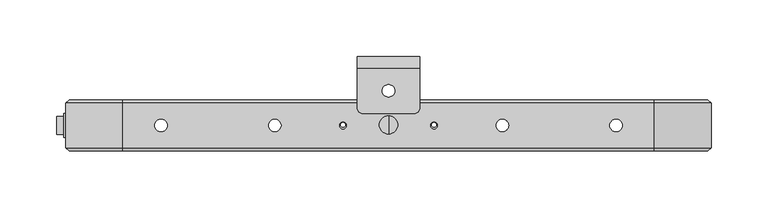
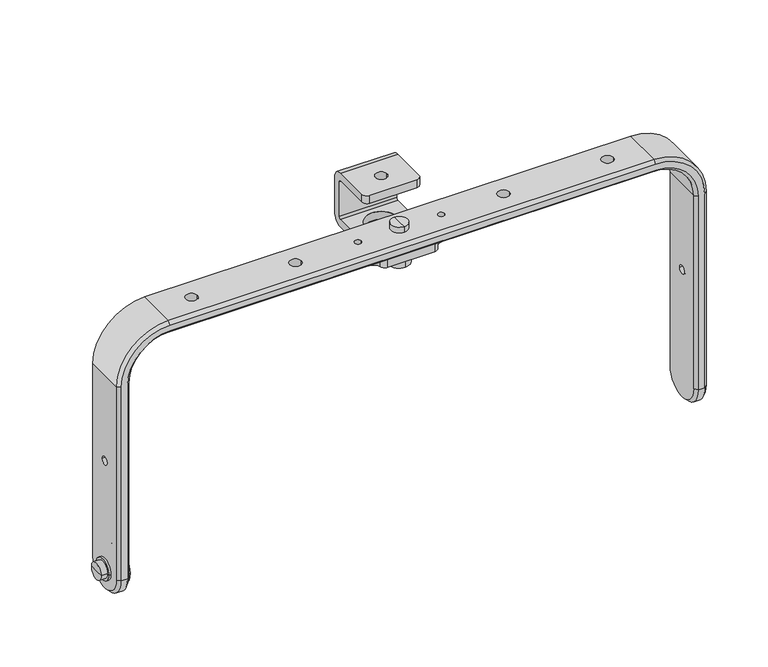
"""IFC4 building model written with IfcOpenShell, lengths in millimetres: proxy geometry, ePS10-HBRK535-CHM : ePS10-HBRK535-CHM."""

from ifc_helpers import new_model, si_unit, point, frame, origin, place, context, project, spatial, polyline, circle_curve, ellipse_curve, trimmed, source, transform, mapped, element, save
from ifc_brep_helpers import plane_surface, cylinder_surface, revolved_surface, advanced_brep


def generic_models_acdf5499(model_context):
    return source(origin(), model_context, "Body", "AdvancedBrep", [
        advanced_brep(
        [(-271.5, -12.057585, -281.5012591), (-271.5, -48.942415, -281.5012591), (-271.5, -34.5553577, -281.5012591), (-271.5, -26.4446423, -281.5012591), (-268.5, -15.057585, -281.5012591), (-268.5, -45.942415, -281.5012591), (-268.5, -26.4446423, -281.5012591), (-268.5, -34.5553577, -281.5012591), (-265.5, -26.4446423, -281.5012591), (-265.5, -34.5553577, -281.5012591), (-265.5, -30.5, -281.5012591), (-291.5, -22.4249697, -281.5012591), (-291.5, -38.5750303, -281.5012591), (-291.5, -30.5, -281.5012591), (-285.5, -22.4249697, -281.5012591), (-285.5, -38.5750303, -281.5012591), (-285.5, -19.944078, -281.5012591), (-285.5, -41.055922, -281.5012591), (-283.5, -19.944078, -281.5012591), (-283.5, -41.055922, -281.5012591), (-283.5, -26.4446423, -281.5012591), (-283.5, -34.5553577, -281.5012591)],
        [
            (0, 1, circle_curve(frame((-271.5, -30.5, -281.5012591), z_axis=(-1.0, 0.0, 0.0), x_axis=(0.0, -1.0, 0.0)), 18.442415)),
            (1, 2),
            (2, 3, circle_curve(frame((-271.5, -30.5, -281.5012591), z_axis=(1.0, 0.0, 0.0), x_axis=(0.0, -1.0, 0.0)), 4.0553577)),
            (3, 0),
            (1, 0, circle_curve(frame((-271.5, -30.5, -281.5012591), z_axis=(-1.0, 0.0, 0.0), x_axis=(0.0, -1.0, 0.0)), 18.442415)),
            (3, 2, circle_curve(frame((-271.5, -30.5, -281.5012591), z_axis=(1.0, 0.0, 0.0), x_axis=(0.0, -1.0, 0.0)), 4.0553577)),
            (4, 5, circle_curve(frame((-268.5, -30.5, -281.5012591), z_axis=(-1.0, 0.0, 0.0), x_axis=(0.0, -1.0, 0.0)), 15.442415)),
            (5, 1, circle_curve(frame((-271.5, -45.942415, -281.5012591), z_axis=(0.0, 0.0, -1.0), x_axis=(1.0, 0.0, 0.0)), 3.0)),
            (0, 4, circle_curve(frame((-271.5, -15.057585, -281.5012591), z_axis=(0.0, 0.0, -1.0), x_axis=(1.0, 0.0, 0.0)), 3.0)),
            (5, 4, circle_curve(frame((-268.5, -30.5, -281.5012591), z_axis=(-1.0, 0.0, 0.0), x_axis=(0.0, -1.0, 0.0)), 15.442415)),
            (6, 7, circle_curve(frame((-268.5, -30.5, -281.5012591), z_axis=(-1.0, 0.0, 0.0), x_axis=(0.0, -1.0, 0.0)), 4.0553577)),
            (7, 5),
            (4, 6),
            (7, 6, circle_curve(frame((-268.5, -30.5, -281.5012591), z_axis=(-1.0, 0.0, 0.0), x_axis=(0.0, -1.0, 0.0)), 4.0553577)),
            (8, 9, circle_curve(frame((-265.5, -30.5, -281.5012591), z_axis=(-1.0, 0.0, 0.0), x_axis=(0.0, -1.0, 0.0)), 4.0553577)),
            (9, 7),
            (6, 8),
            (9, 8, circle_curve(frame((-265.5, -30.5, -281.5012591), z_axis=(-1.0, 0.0, 0.0), x_axis=(0.0, -1.0, 0.0)), 4.0553577)),
            (10, 9),
            (8, 10),
            (11, 12, circle_curve(frame((-291.5, -30.5, -281.5012591), z_axis=(-1.0, 0.0, 0.0), x_axis=(0.0, -1.0, 0.0)), 8.0750303)),
            (12, 13),
            (13, 11),
            (12, 11, circle_curve(frame((-291.5, -30.5, -281.5012591), z_axis=(-1.0, 0.0, 0.0), x_axis=(0.0, -1.0, 0.0)), 8.0750303)),
            (14, 15, circle_curve(frame((-285.5, -30.5, -281.5012591), z_axis=(-1.0, 0.0, 0.0), x_axis=(0.0, -1.0, 0.0)), 8.0750303)),
            (15, 12),
            (11, 14),
            (15, 14, circle_curve(frame((-285.5, -30.5, -281.5012591), z_axis=(-1.0, 0.0, 0.0), x_axis=(0.0, -1.0, 0.0)), 8.0750303)),
            (16, 17, circle_curve(frame((-285.5, -30.5, -281.5012591), z_axis=(-1.0, 0.0, 0.0), x_axis=(0.0, -1.0, 0.0)), 10.555922)),
            (17, 15),
            (14, 16),
            (17, 16, circle_curve(frame((-285.5, -30.5, -281.5012591), z_axis=(-1.0, 0.0, 0.0), x_axis=(0.0, -1.0, 0.0)), 10.555922)),
            (18, 19, circle_curve(frame((-283.5, -30.5, -281.5012591), z_axis=(-1.0, 0.0, 0.0), x_axis=(0.0, -1.0, 0.0)), 10.555922)),
            (19, 17),
            (16, 18),
            (19, 18, circle_curve(frame((-283.5, -30.5, -281.5012591), z_axis=(-1.0, 0.0, 0.0), x_axis=(0.0, -1.0, 0.0)), 10.555922)),
            (20, 21, circle_curve(frame((-283.5, -30.5, -281.5012591), z_axis=(-1.0, 0.0, 0.0), x_axis=(0.0, -1.0, 0.0)), 4.0553577)),
            (21, 19),
            (18, 20),
            (21, 20, circle_curve(frame((-283.5, -30.5, -281.5012591), z_axis=(-1.0, 0.0, 0.0), x_axis=(0.0, -1.0, 0.0)), 4.0553577)),
            (2, 21),
            (20, 3),
        ],
        [
            plane_surface(frame((-271.5, -30.5, -281.5012591), z_axis=(-1.0, 0.0, 0.0), x_axis=(0.0, -1.0, 0.0))),
            revolved_surface(trimmed(ellipse_curve(frame((-271.5, -45.942415, -281.5012591), z_axis=(0.0, 0.0, 1.0), x_axis=(1.0, 0.0, 0.0)), 3.0, 3.0), [point((-271.5, -48.942415, -281.5012591))], [point((-268.5, -45.942415, -281.5012591))], True, "CARTESIAN"), (-258.7578639, -30.5, -281.5012591), (1.0, 0.0, 0.0)),
            plane_surface(frame((-268.5, -30.5, -281.5012591), z_axis=(1.0, 0.0, 0.0), x_axis=(0.0, -1.0, 0.0))),
            cylinder_surface(frame((-258.7578639, -30.5, -281.5012591), z_axis=(1.0, 0.0, 0.0), x_axis=(0.0, -1.0, 0.0)), 4.0553577),
            plane_surface(frame((-265.5, -30.5, -281.5012591), z_axis=(1.0, 0.0, 0.0), x_axis=(0.0, -1.0, 0.0))),
            plane_surface(frame((-291.5, -30.5, -281.5012591), z_axis=(-1.0, 0.0, 0.0), x_axis=(0.0, -1.0, 0.0))),
            cylinder_surface(frame((-258.7578639, -30.5, -281.5012591), z_axis=(1.0, 0.0, 0.0), x_axis=(0.0, -1.0, 0.0)), 8.0750303),
            plane_surface(frame((-285.5, -30.5, -281.5012591), z_axis=(-1.0, 0.0, 0.0), x_axis=(0.0, -1.0, 0.0))),
            cylinder_surface(frame((-258.7578639, -30.5, -281.5012591), z_axis=(1.0, 0.0, 0.0), x_axis=(0.0, -1.0, 0.0)), 10.555922),
            plane_surface(frame((-283.5, -30.5, -281.5012591), z_axis=(1.0, 0.0, 0.0), x_axis=(0.0, -1.0, 0.0))),
        ],
        [
            (0, [[1, 2, 3, 4]]),
            (0, [[5, -4, 6, -2]]),
            (1, [[7, 8, -1, 9]]),
            (1, [[10, -9, -5, -8]]),
            (2, [[11, 12, -7, 13]]),
            (2, [[14, -13, -10, -12]]),
            (3, [[15, 16, -11, 17]]),
            (3, [[18, -17, -14, -16]]),
            (4, [[19, -15, 20]]),
            (4, [[-20, -18, -19]]),
            (5, [[21, 22, 23]]),
            (5, [[24, -23, -22]]),
            (6, [[25, 26, -21, 27]]),
            (6, [[28, -27, -24, -26]]),
            (7, [[29, 30, -25, 31]]),
            (7, [[32, -31, -28, -30]]),
            (8, [[33, 34, -29, 35]]),
            (8, [[36, -35, -32, -34]]),
            (9, [[37, 38, -33, 39]]),
            (9, [[40, -39, -36, -38]]),
            (3, [[-3, 41, -37, 42]]),
            (3, [[-6, -42, -40, -41]]),
        ],
    ),
        advanced_brep(
        [(283.5, -10.9281655, -281.5012591), (283.5, -10.9281655, -85.0), (283.5, -50.0718345, -85.0), (283.5, -50.0718345, -281.5012591), (283.5, -26.5, -172.0012591), (283.5, -34.5, -172.0012591), (280.5, -53.0718345, -85.0), (280.5, -53.0718345, -281.5012591), (233.5, -53.0718345, -38.0), (-233.5, -53.0718345, -38.0), (-280.5, -53.0718345, -85.0), (-280.5, -53.0718345, -281.5012591), (-274.5, -53.0718345, -281.5012591), (-274.5, -53.0718345, -85.0), (-233.5, -53.0718345, -44.0), (233.5, -53.0718345, -44.0), (274.5, -53.0718345, -85.0), (274.5, -53.0718345, -281.5012591), (271.5, -50.0718345, -85.0), (271.5, -50.0718345, -281.5012591), (271.5, -10.9281655, -85.0), (271.5, -10.9281655, -281.5012591), (271.5, -34.5, -172.0012591), (271.5, -26.5, -172.0012591), (233.5, -10.9281655, -35.0), (233.5, -50.0718345, -35.0), (233.5, -50.0718345, -47.0), (233.5, -10.9281655, -47.0), (-233.5, -10.9281655, -35.0), (-233.5, -50.0718345, -35.0), (5.5, -30.5, -35.0), (-5.5, -30.5, -35.0), (-194.5, -30.5, -35.0), (-205.5, -30.5, -35.0), (-37.0, -30.5, -35.0), (-43.0, -30.5, -35.0), (-94.5, -30.5, -35.0), (-105.5, -30.5, -35.0), (194.5, -30.5, -35.0), (205.5, -30.5, -35.0), (37.0, -30.5, -35.0), (43.0, -30.5, -35.0), (94.5, -30.5, -35.0), (105.5, -30.5, -35.0), (-233.5, -50.0718345, -47.0), (-233.5, -10.9281655, -47.0), (-5.5, -30.5, -47.0), (5.5, -30.5, -47.0), (-205.5, -30.5, -47.0), (-194.5, -30.5, -47.0), (-43.0, -30.5, -47.0), (-37.0, -30.5, -47.0), (-105.5, -30.5, -47.0), (-94.5, -30.5, -47.0), (205.5, -30.5, -47.0), (194.5, -30.5, -47.0), (43.0, -30.5, -47.0), (37.0, -30.5, -47.0), (105.5, -30.5, -47.0), (94.5, -30.5, -47.0), (-283.5, -10.9281655, -85.0), (-283.5, -50.0718345, -85.0), (-271.5, -50.0718345, -85.0), (-271.5, -10.9281655, -85.0), (-283.5, -10.9281655, -281.5012591), (-283.5, -50.0718345, -281.5012591), (-283.5, -34.5, -172.0012591), (-283.5, -26.5, -172.0012591), (-271.5, -50.0718345, -281.5012591), (-271.5, -10.9281655, -281.5012591), (-271.5, -26.5, -172.0012591), (-271.5, -34.5, -172.0012591), (274.5, -7.9281655, -85.0), (274.5, -7.9281655, -281.5012591), (233.5, -7.9281655, -44.0), (-233.5, -7.9281655, -44.0), (-274.5, -7.9281655, -85.0), (-274.5, -7.9281655, -281.5012591), (-280.5, -7.9281655, -281.5012591), (-280.5, -7.9281655, -85.0), (-233.5, -7.9281655, -38.0), (233.5, -7.9281655, -38.0), (280.5, -7.9281655, -85.0), (280.5, -7.9281655, -281.5012591)],
        [
            (0, 1),
            (1, 2),
            (2, 3),
            (3, 0, circle_curve(frame((283.5, -30.5, -281.5012591), z_axis=(1.0, 0.0, 0.0), x_axis=(0.0, -1.0, 0.0)), 19.5718345)),
            (4, 5, circle_curve(frame((283.5, -30.5, -172.0012591), z_axis=(-1.0, 0.0, 0.0), x_axis=(0.0, 1.0, 0.0)), 4.0)),
            (5, 4, circle_curve(frame((283.5, -30.5, -172.0012591), z_axis=(-1.0, 0.0, 0.0), x_axis=(0.0, 1.0, 0.0)), 4.0)),
            (2, 6),
            (6, 7),
            (7, 3),
            (6, 8, circle_curve(frame((233.5, -53.0718345, -85.0), z_axis=(0.0, -1.0, 0.0), x_axis=(1.0, 0.0, 0.0)), 47.0)),
            (8, 9),
            (9, 10, circle_curve(frame((-233.5, -53.0718345, -85.0), z_axis=(0.0, -1.0, 0.0), x_axis=(0.0, 0.0, 1.0)), 47.0)),
            (10, 11),
            (11, 12),
            (12, 13),
            (13, 14, circle_curve(frame((-233.5, -53.0718345, -85.0), z_axis=(0.0, 1.0, 0.0), x_axis=(0.0, 0.0, 1.0)), 41.0)),
            (14, 15),
            (15, 16, circle_curve(frame((233.5, -53.0718345, -85.0), z_axis=(0.0, 1.0, 0.0), x_axis=(1.0, 0.0, 0.0)), 41.0)),
            (16, 17),
            (17, 7),
            (16, 18),
            (18, 19),
            (19, 17),
            (18, 20),
            (20, 21),
            (21, 19, circle_curve(frame((271.5, -30.5, -281.5012591), z_axis=(-1.0, 0.0, 0.0), x_axis=(0.0, -1.0, 0.0)), 19.5718345)),
            (22, 23, circle_curve(frame((271.5, -30.5, -172.0012591), z_axis=(1.0, 0.0, 0.0), x_axis=(0.0, 1.0, 0.0)), 4.0)),
            (23, 22, circle_curve(frame((271.5, -30.5, -172.0012591), z_axis=(1.0, 0.0, 0.0), x_axis=(0.0, 1.0, 0.0)), 4.0)),
            (1, 24, circle_curve(frame((233.5, -10.9281655, -85.0), z_axis=(0.0, -1.0, 0.0), x_axis=(1.0, 0.0, 0.0)), 50.0)),
            (24, 25),
            (25, 2, circle_curve(frame((233.5, -50.0718345, -85.0), z_axis=(0.0, 1.0, 0.0), x_axis=(1.0, 0.0, 0.0)), 50.0)),
            (25, 8),
            (15, 26),
            (26, 18, circle_curve(frame((233.5, -50.0718345, -85.0), z_axis=(0.0, 1.0, 0.0), x_axis=(1.0, 0.0, 0.0)), 38.0)),
            (26, 27),
            (27, 20, circle_curve(frame((233.5, -10.9281655, -85.0), z_axis=(0.0, 1.0, 0.0), x_axis=(1.0, 0.0, 0.0)), 38.0)),
            (24, 28),
            (28, 29),
            (29, 25),
            (30, 31, circle_curve(frame((0.0, -30.5, -35.0), z_axis=(0.0, 0.0, -1.0), x_axis=(1.0, 0.0, 0.0)), 5.5)),
            (31, 30, circle_curve(frame((0.0, -30.5, -35.0), z_axis=(0.0, 0.0, -1.0), x_axis=(1.0, 0.0, 0.0)), 5.5)),
            (32, 33, circle_curve(frame((-200.0, -30.5, -35.0), z_axis=(0.0, 0.0, -1.0), x_axis=(1.0, 0.0, 0.0)), 5.5)),
            (33, 32, circle_curve(frame((-200.0, -30.5, -35.0), z_axis=(0.0, 0.0, -1.0), x_axis=(1.0, 0.0, 0.0)), 5.5)),
            (34, 35, circle_curve(frame((-40.0, -30.5, -35.0), z_axis=(0.0, 0.0, -1.0), x_axis=(1.0, 0.0, 0.0)), 3.0)),
            (35, 34, circle_curve(frame((-40.0, -30.5, -35.0), z_axis=(0.0, 0.0, -1.0), x_axis=(1.0, 0.0, 0.0)), 3.0)),
            (36, 37, circle_curve(frame((-100.0, -30.5, -35.0), z_axis=(0.0, 0.0, -1.0), x_axis=(1.0, 0.0, 0.0)), 5.5)),
            (37, 36, circle_curve(frame((-100.0, -30.5, -35.0), z_axis=(0.0, 0.0, -1.0), x_axis=(1.0, 0.0, 0.0)), 5.5)),
            (38, 39, circle_curve(frame((200.0, -30.5, -35.0), z_axis=(0.0, 0.0, -1.0), x_axis=(-1.0, 0.0, 0.0)), 5.5)),
            (39, 38, circle_curve(frame((200.0, -30.5, -35.0), z_axis=(0.0, 0.0, -1.0), x_axis=(-1.0, 0.0, 0.0)), 5.5)),
            (40, 41, circle_curve(frame((40.0, -30.5, -35.0), z_axis=(0.0, 0.0, -1.0), x_axis=(-1.0, 0.0, 0.0)), 3.0)),
            (41, 40, circle_curve(frame((40.0, -30.5, -35.0), z_axis=(0.0, 0.0, -1.0), x_axis=(-1.0, 0.0, 0.0)), 3.0)),
            (42, 43, circle_curve(frame((100.0, -30.5, -35.0), z_axis=(0.0, 0.0, -1.0), x_axis=(-1.0, 0.0, 0.0)), 5.5)),
            (43, 42, circle_curve(frame((100.0, -30.5, -35.0), z_axis=(0.0, 0.0, -1.0), x_axis=(-1.0, 0.0, 0.0)), 5.5)),
            (29, 9),
            (14, 44),
            (44, 26),
            (44, 45),
            (45, 27),
            (46, 47, circle_curve(frame((0.0, -30.5, -47.0), z_axis=(0.0, 0.0, 1.0), x_axis=(1.0, 0.0, 0.0)), 5.5)),
            (47, 46, circle_curve(frame((0.0, -30.5, -47.0), z_axis=(0.0, 0.0, 1.0), x_axis=(1.0, 0.0, 0.0)), 5.5)),
            (48, 49, circle_curve(frame((-200.0, -30.5, -47.0), z_axis=(0.0, 0.0, 1.0), x_axis=(1.0, 0.0, 0.0)), 5.5)),
            (49, 48, circle_curve(frame((-200.0, -30.5, -47.0), z_axis=(0.0, 0.0, 1.0), x_axis=(1.0, 0.0, 0.0)), 5.5)),
            (50, 51, circle_curve(frame((-40.0, -30.5, -47.0), z_axis=(0.0, 0.0, 1.0), x_axis=(1.0, 0.0, 0.0)), 3.0)),
            (51, 50, circle_curve(frame((-40.0, -30.5, -47.0), z_axis=(0.0, 0.0, 1.0), x_axis=(1.0, 0.0, 0.0)), 3.0)),
            (52, 53, circle_curve(frame((-100.0, -30.5, -47.0), z_axis=(0.0, 0.0, 1.0), x_axis=(1.0, 0.0, 0.0)), 5.5)),
            (53, 52, circle_curve(frame((-100.0, -30.5, -47.0), z_axis=(0.0, 0.0, 1.0), x_axis=(1.0, 0.0, 0.0)), 5.5)),
            (54, 55, circle_curve(frame((200.0, -30.5, -47.0), z_axis=(0.0, 0.0, 1.0), x_axis=(-1.0, 0.0, 0.0)), 5.5)),
            (55, 54, circle_curve(frame((200.0, -30.5, -47.0), z_axis=(0.0, 0.0, 1.0), x_axis=(-1.0, 0.0, 0.0)), 5.5)),
            (56, 57, circle_curve(frame((40.0, -30.5, -47.0), z_axis=(0.0, 0.0, 1.0), x_axis=(-1.0, 0.0, 0.0)), 3.0)),
            (57, 56, circle_curve(frame((40.0, -30.5, -47.0), z_axis=(0.0, 0.0, 1.0), x_axis=(-1.0, 0.0, 0.0)), 3.0)),
            (58, 59, circle_curve(frame((100.0, -30.5, -47.0), z_axis=(0.0, 0.0, 1.0), x_axis=(-1.0, 0.0, 0.0)), 5.5)),
            (59, 58, circle_curve(frame((100.0, -30.5, -47.0), z_axis=(0.0, 0.0, 1.0), x_axis=(-1.0, 0.0, 0.0)), 5.5)),
            (28, 60, circle_curve(frame((-233.5, -10.9281655, -85.0), z_axis=(0.0, -1.0, 0.0), x_axis=(0.0, 0.0, 1.0)), 50.0)),
            (60, 61),
            (61, 29, circle_curve(frame((-233.5, -50.0718345, -85.0), z_axis=(0.0, 1.0, 0.0), x_axis=(0.0, 0.0, 1.0)), 50.0)),
            (61, 10),
            (13, 62),
            (62, 44, circle_curve(frame((-233.5, -50.0718345, -85.0), z_axis=(0.0, 1.0, 0.0), x_axis=(0.0, 0.0, 1.0)), 38.0)),
            (62, 63),
            (63, 45, circle_curve(frame((-233.5, -10.9281655, -85.0), z_axis=(0.0, 1.0, 0.0), x_axis=(0.0, 0.0, 1.0)), 38.0)),
            (60, 64),
            (64, 65, circle_curve(frame((-283.5, -30.5, -281.5012591), z_axis=(-1.0, 0.0, 0.0), x_axis=(0.0, -1.0, 0.0)), 19.5718345)),
            (65, 61),
            (66, 67, circle_curve(frame((-283.5, -30.5, -172.0012591), z_axis=(1.0, 0.0, 0.0), x_axis=(0.0, 1.0, 0.0)), 4.0)),
            (67, 66, circle_curve(frame((-283.5, -30.5, -172.0012591), z_axis=(1.0, 0.0, 0.0), x_axis=(0.0, 1.0, 0.0)), 4.0)),
            (65, 11),
            (12, 68),
            (68, 62),
            (68, 69, circle_curve(frame((-271.5, -30.5, -281.5012591), z_axis=(1.0, 0.0, 0.0), x_axis=(0.0, -1.0, 0.0)), 19.5718345)),
            (69, 63),
            (70, 71, circle_curve(frame((-271.5, -30.5, -172.0012591), z_axis=(-1.0, 0.0, 0.0), x_axis=(0.0, 1.0, 0.0)), 4.0)),
            (71, 70, circle_curve(frame((-271.5, -30.5, -172.0012591), z_axis=(-1.0, 0.0, 0.0), x_axis=(0.0, 1.0, 0.0)), 4.0)),
            (20, 72),
            (72, 73),
            (73, 21),
            (72, 74, circle_curve(frame((233.5, -7.9281655, -85.0), z_axis=(0.0, -1.0, 0.0), x_axis=(1.0, 0.0, 0.0)), 41.0)),
            (74, 75),
            (75, 76, circle_curve(frame((-233.5, -7.9281655, -85.0), z_axis=(0.0, -1.0, 0.0), x_axis=(0.0, 0.0, 1.0)), 41.0)),
            (76, 77),
            (77, 78),
            (78, 79),
            (79, 80, circle_curve(frame((-233.5, -7.9281655, -85.0), z_axis=(0.0, 1.0, 0.0), x_axis=(0.0, 0.0, 1.0)), 47.0)),
            (80, 81),
            (81, 82, circle_curve(frame((233.5, -7.9281655, -85.0), z_axis=(0.0, 1.0, 0.0), x_axis=(1.0, 0.0, 0.0)), 47.0)),
            (82, 83),
            (83, 73),
            (0, 83),
            (82, 1),
            (27, 74),
            (81, 24),
            (45, 75),
            (80, 28),
            (63, 76),
            (79, 60),
            (69, 77),
            (78, 64),
            (77, 12, circle_curve(frame((-274.5, -30.5, -281.5012591), z_axis=(-1.0, 0.0, 0.0), x_axis=(0.0, -1.0, 0.0)), 22.5718345)),
            (11, 78, circle_curve(frame((-280.5, -30.5, -281.5012591), z_axis=(1.0, 0.0, 0.0), x_axis=(0.0, -1.0, 0.0)), 22.5718345)),
            (83, 7, circle_curve(frame((280.5, -30.5, -281.5012591), z_axis=(-1.0, 0.0, 0.0), x_axis=(0.0, -1.0, 0.0)), 22.5718345)),
            (17, 73, circle_curve(frame((274.5, -30.5, -281.5012591), z_axis=(1.0, 0.0, 0.0), x_axis=(0.0, -1.0, 0.0)), 22.5718345)),
            (46, 31),
            (30, 47),
            (48, 33),
            (32, 49),
            (50, 35),
            (34, 51),
            (22, 5),
            (4, 23),
            (66, 71),
            (70, 67),
            (52, 37),
            (36, 53),
            (54, 39),
            (38, 55),
            (56, 41),
            (40, 57),
            (58, 43),
            (42, 59),
        ],
        [
            plane_surface(frame((283.5, -10.9281655, -281.5012591), z_axis=(1.0, 0.0, 0.0), x_axis=(0.0, 0.0, 1.0))),
            plane_surface(frame((283.5, -50.0718345, -281.5012591), z_axis=(0.7071067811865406, -0.7071067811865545, 0.0), x_axis=(0.0, 0.0, 1.0))),
            plane_surface(frame((280.5, -53.0718345, -281.5012591), z_axis=(0.0, -1.0, 0.0), x_axis=(0.0, 0.0, 1.0))),
            plane_surface(frame((274.5, -53.0718345, -281.5012591), z_axis=(-0.707106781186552, -0.707106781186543, 0.0), x_axis=(0.0, 0.0, 1.0))),
            plane_surface(frame((271.5, -50.0718345, -281.5012591), z_axis=(-1.0, 0.0, 0.0), x_axis=(0.0, 0.0, 1.0))),
            cylinder_surface(frame((233.5, -30.5, -85.0), z_axis=(0.0, -1.0, 0.0), x_axis=(1.0, 0.0, 0.0)), 50.0),
            revolved_surface(polyline([(283.5, -50.0718345, -85.0), (280.5, -53.0718345, -85.0)]), (233.5, -30.5, -85.0), (0.0, -1.0, 0.0)),
            revolved_surface(polyline([(274.5, -53.0718345, -85.0), (271.5, -50.0718345, -85.0)]), (233.5, -30.5, -85.0), (0.0, -1.0, 0.0)),
            revolved_surface(polyline([(271.5, -50.0718345, -85.0), (271.5, -10.928165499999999, -85.0)]), (233.5, -30.5, -85.0), (0.0, -1.0, 0.0)),
            plane_surface(frame((233.5, -10.9281655, -35.0), z_axis=(0.0, 0.0, 1.0), x_axis=(-1.0, 0.0, 0.0))),
            plane_surface(frame((233.5, -50.0718345, -35.0), z_axis=(0.0, -0.7071067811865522, 0.7071067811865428), x_axis=(-1.0, 0.0, 0.0))),
            plane_surface(frame((233.5, -53.0718345, -44.0), z_axis=(0.0, -0.7071067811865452, -0.7071067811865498), x_axis=(-1.0, 0.0, 0.0))),
            plane_surface(frame((233.5, -50.0718345, -47.0), z_axis=(0.0, 0.0, -1.0), x_axis=(-1.0, 0.0, 0.0))),
            cylinder_surface(frame((-233.5, -30.5, -85.0), z_axis=(0.0, -1.0, 0.0), x_axis=(0.0, 0.0, 1.0)), 50.0),
            revolved_surface(polyline([(-233.5, -50.0718345, -35.0), (-233.5, -53.0718345, -38.0)]), (-233.5, -30.5, -85.0), (0.0, -1.0, 0.0)),
            revolved_surface(polyline([(-233.5, -53.0718345, -44.0), (-233.5, -50.0718345, -47.0)]), (-233.5, -30.5, -85.0), (0.0, -1.0, 0.0)),
            revolved_surface(polyline([(-233.5, -50.0718345, -47.0), (-233.5, -10.928165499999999, -47.0)]), (-233.5, -30.5, -85.0), (0.0, -1.0, 0.0)),
            plane_surface(frame((-283.5, -10.9281655, -85.0), z_axis=(-1.0, 0.0, 0.0), x_axis=(0.0, 0.0, -1.0))),
            plane_surface(frame((-283.5, -50.0718345, -85.0), z_axis=(-0.707106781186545, -0.70710678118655, 0.0), x_axis=(0.0, 0.0, -1.0))),
            plane_surface(frame((-274.5, -53.0718345, -85.0), z_axis=(0.7071067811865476, -0.7071067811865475, 0.0), x_axis=(0.0, 0.0, -1.0))),
            plane_surface(frame((-271.5, -50.0718345, -85.0), z_axis=(1.0, 0.0, 0.0), x_axis=(0.0, 0.0, -1.0))),
            plane_surface(frame((271.5, -10.9281655, -281.5012591), z_axis=(-0.7071067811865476, 0.7071067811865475, 0.0), x_axis=(0.0, 0.0, 1.0))),
            plane_surface(frame((274.5, -7.9281655, -281.5012591), z_axis=(0.0, 1.0, 0.0), x_axis=(0.0, 0.0, 1.0))),
            plane_surface(frame((280.5, -7.9281655, -281.5012591), z_axis=(0.707106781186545, 0.70710678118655, 0.0), x_axis=(0.0, 0.0, 1.0))),
            revolved_surface(polyline([(271.5, -10.9281655, -85.0), (274.5, -7.9281655, -85.0)]), (233.5, -30.5, -85.0), (0.0, -1.0, 0.0)),
            revolved_surface(polyline([(280.5, -7.9281655, -85.0), (283.5, -10.9281655, -85.0)]), (233.5, -30.5, -85.0), (0.0, -1.0, 0.0)),
            plane_surface(frame((233.5, -10.9281655, -47.0), z_axis=(0.0, 0.7071067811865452, -0.7071067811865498), x_axis=(-1.0, 0.0, 0.0))),
            plane_surface(frame((233.5, -7.9281655, -38.0), z_axis=(0.0, 0.7071067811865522, 0.7071067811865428), x_axis=(-1.0, 0.0, 0.0))),
            revolved_surface(polyline([(-233.5, -10.9281655, -47.0), (-233.5, -7.9281655, -44.0)]), (-233.5, -30.5, -85.0), (0.0, -1.0, 0.0)),
            revolved_surface(polyline([(-233.5, -7.9281655, -38.0), (-233.5, -10.9281655, -35.0)]), (-233.5, -30.5, -85.0), (0.0, -1.0, 0.0)),
            plane_surface(frame((-271.5, -10.9281655, -85.0), z_axis=(0.707106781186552, 0.707106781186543, 0.0), x_axis=(0.0, 0.0, -1.0))),
            plane_surface(frame((-280.5, -7.9281655, -85.0), z_axis=(-0.7071067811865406, 0.7071067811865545, 0.0), x_axis=(0.0, 0.0, -1.0))),
            cylinder_surface(frame((1916.0, -30.5, -281.5012591), z_axis=(1.0, 0.0, 0.0), x_axis=(0.0, -1.0, 0.0)), 22.5718345),
            revolved_surface(polyline([(-274.5, -53.0718345, -281.5012591), (-271.5, -50.0718345, -281.5012591)]), (1916.0, -30.5, -281.5012591), (1.0, 0.0, 0.0)),
            revolved_surface(polyline([(-283.5, -50.0718345, -281.5012591), (-280.5, -53.0718345, -281.5012591)]), (1916.0, -30.5, -281.5012591), (1.0, 0.0, 0.0)),
            cylinder_surface(frame((-1916.0, -30.5, -281.5012591), z_axis=(1.0, 0.0, 0.0), x_axis=(0.0, -1.0, 0.0)), 22.5718345),
            revolved_surface(polyline([(271.5, -50.0718345, -281.5012591), (274.5, -53.0718345, -281.5012591)]), (-1916.0, -30.5, -281.5012591), (1.0, 0.0, 0.0)),
            revolved_surface(polyline([(280.5, -53.0718345, -281.5012591), (283.5, -50.0718345, -281.5012591)]), (-1916.0, -30.5, -281.5012591), (1.0, 0.0, 0.0)),
            revolved_surface(polyline([(5.5, -30.5, -35.0), (5.5, -30.5, -47.0)]), (0.0, -30.5, -55.0), (0.0, 0.0, 1.0)),
            revolved_surface(polyline([(-194.5, -30.5, -35.0), (-194.5, -30.5, -47.0)]), (-200.0, -30.5, -35.0), (0.0, 0.0, 1.0)),
            revolved_surface(polyline([(-37.0, -30.5, -35.0), (-37.0, -30.5, -47.0)]), (-40.0, -30.5, -35.0), (0.0, 0.0, 1.0)),
            revolved_surface(polyline([(283.5, -26.5, -172.0012591), (271.5, -26.5, -172.0012591)]), (-290.0, -30.5, -172.0012591), (1.0, 0.0, 0.0)),
            revolved_surface(polyline([(-271.5, -26.5, -172.0012591), (-283.5, -26.5, -172.0012591)]), (-290.0, -30.5, -172.0012591), (1.0, 0.0, 0.0)),
            revolved_surface(polyline([(-94.5, -30.5, -35.0), (-94.5, -30.5, -47.0)]), (-100.0, -30.5, -35.0), (0.0, 0.0, 1.0)),
            revolved_surface(polyline([(194.5, -30.5, -35.0), (194.5, -30.5, -47.0)]), (200.0, -30.5, -35.0), (0.0, 0.0, 1.0)),
            revolved_surface(polyline([(37.0, -30.5, -35.0), (37.0, -30.5, -47.0)]), (40.0, -30.5, -35.0), (0.0, 0.0, 1.0)),
            revolved_surface(polyline([(94.5, -30.5, -35.0), (94.5, -30.5, -47.0)]), (100.0, -30.5, -35.0), (0.0, 0.0, 1.0)),
        ],
        [
            (0, [[1, 2, 3, 4], [5, 6]]),
            (1, [[-3, 7, 8, 9]]),
            (2, [[-8, 10, 11, 12, 13, 14, 15, 16, 17, 18, 19, 20]]),
            (3, [[-19, 21, 22, 23]]),
            (4, [[-22, 24, 25, 26], [27, 28]]),
            (5, [[-2, 29, 30, 31]]),
            (6, [[-7, -31, 32, -10]]),
            (7, [[-18, 33, 34, -21]]),
            (8, [[-24, -34, 35, 36]]),
            (9, [[-30, 37, 38, 39], [40, 41], [42, 43], [44, 45], [46, 47], [48, 49], [50, 51], [52, 53]]),
            (10, [[-11, -32, -39, 54]]),
            (11, [[-17, 55, 56, -33]]),
            (12, [[-35, -56, 57, 58], [59, 60], [61, 62], [63, 64], [65, 66], [67, 68], [69, 70], [71, 72]]),
            (13, [[-38, 73, 74, 75]]),
            (14, [[-12, -54, -75, 76]]),
            (15, [[-16, 77, 78, -55]]),
            (16, [[-57, -78, 79, 80]]),
            (17, [[-74, 81, 82, 83], [84, 85]]),
            (18, [[-13, -76, -83, 86]]),
            (19, [[-15, 87, 88, -77]]),
            (20, [[-79, -88, 89, 90], [91, 92]]),
            (21, [[-25, 93, 94, 95]]),
            (22, [[-94, 96, 97, 98, 99, 100, 101, 102, 103, 104, 105, 106]]),
            (23, [[-1, 107, -105, 108]]),
            (24, [[-36, 109, -96, -93]]),
            (25, [[-29, -108, -104, 110]]),
            (26, [[-58, 111, -97, -109]]),
            (27, [[-37, -110, -103, 112]]),
            (28, [[-80, 113, -98, -111]]),
            (29, [[-73, -112, -102, 114]]),
            (30, [[-90, 115, -99, -113]]),
            (31, [[-81, -114, -101, 116]]),
            (32, [[117, -14, 118, -100]]),
            (33, [[-117, -115, -89, -87]]),
            (34, [[-118, -86, -82, -116]]),
            (35, [[119, -20, 120, -106]]),
            (36, [[-120, -23, -26, -95]]),
            (37, [[-119, -107, -4, -9]]),
            (38, [[121, -40, 122, -59]]),
            (38, [[-121, -60, -122, -41]]),
            (39, [[123, -42, 124, -61]]),
            (39, [[-123, -62, -124, -43]]),
            (40, [[125, -44, 126, -63]]),
            (40, [[-125, -64, -126, -45]]),
            (41, [[127, -5, 128, -27]]),
            (42, [[129, -91, 130, -84]]),
            (41, [[-127, -28, -128, -6]]),
            (42, [[-129, -85, -130, -92]]),
            (43, [[131, -46, 132, -65]]),
            (43, [[-131, -66, -132, -47]]),
            (44, [[133, -48, 134, -67]]),
            (44, [[-133, -68, -134, -49]]),
            (45, [[135, -50, 136, -69]]),
            (45, [[-135, -70, -136, -51]]),
            (46, [[137, -52, 138, -71]]),
            (46, [[-137, -72, -138, -53]]),
        ],
    ),
        advanced_brep(
        [(-27.5, 20.0220326, -55.0), (27.5, 20.0220326, -55.0), (27.5, -9.9779674, -55.0), (37.5, -19.9779674, -55.0), (42.5, -19.9779674, -55.0), (42.5, -39.9779674, -55.0), (36.6421356, -39.9779674, -55.0), (26.9417827, -47.2877077, -55.0), (22.545369, -49.9781759, -55.0), (-22.590738, -49.9779674, -55.0), (-27.3678633, -46.0992499, -55.0), (-36.6421356, -39.9779674, -55.0), (-42.5, -39.9779674, -55.0), (-42.5, -19.9779674, -55.0), (-37.5, -19.9779674, -55.0), (-27.5, -9.9779674, -55.0), (-42.0082653, -29.9779674, -55.0), (-38.0082653, -29.9779674, -55.0), (42.0082653, -29.9779674, -55.0), (38.0082653, -29.9779674, -55.0), (1.5, -24.4779674, -55.0), (-1.5, -24.4779674, -55.0), (-1.5, -35.4779674, -55.0), (1.5, -35.4779674, -55.0), (-15.0, 0.0, -55.0), (15.0, 0.0, -55.0), (-27.5, 30.0220326, -45.0), (27.5, 30.0220326, -45.0), (-27.5, 30.0220326, -10.0), (27.5, 30.0220326, -10.0), (-27.5, 20.0220326, 0.0), (27.5, 20.0220326, 0.0), (-27.5, -14.9779674, 0.0), (-22.5, -19.9779674, 0.0), (22.5, -19.9779674, 0.0), (27.5, -14.9779674, 0.0), (5.5, 0.0, 0.0), (-5.5, 0.0, 0.0), (-22.5, -19.9779674, -8.0), (22.5, -19.9779674, -8.0), (-27.5, -14.9779674, -8.0), (-27.5, 20.0220326, -8.0), (27.5, 20.0220326, -8.0), (27.5, -14.9779674, -8.0), (-5.5, 0.0, -8.0), (5.5, 0.0, -8.0), (-27.5, 22.0220326, -10.0), (27.5, 22.0220326, -10.0), (-27.5, 22.0220326, -45.0), (27.5, 22.0220326, -45.0), (-27.5, 20.0220326, -47.0), (27.5, 20.0220326, -47.0), (-27.5, -9.9779674, -47.0), (-37.5, -19.9779674, -47.0), (-42.5, -19.9779674, -47.0), (-42.5, -39.9779674, -47.0), (-36.6421356, -39.9779674, -47.0), (-27.3678633, -46.0992499, -47.0), (-22.545369, -49.9781759, -47.0), (22.590738, -49.9779674, -47.0), (26.9417827, -47.2877077, -47.0), (36.6421356, -39.9779674, -47.0), (42.5, -39.9779674, -47.0), (42.5, -19.9779674, -47.0), (37.5, -19.9779674, -47.0), (27.5, -9.9779674, -47.0), (-38.0082653, -29.9779674, -47.0), (-42.0082653, -29.9779674, -47.0), (38.0082653, -29.9779674, -47.0), (42.0082653, -29.9779674, -47.0), (-1.5, -24.4779674, -47.0), (1.5, -24.4779674, -47.0), (1.5, -35.4779674, -47.0), (-1.5, -35.4779674, -47.0), (15.0, 0.0, -47.0), (-15.0, 0.0, -47.0)],
        [
            (0, 1),
            (1, 2),
            (2, 3, circle_curve(frame((37.5, -9.9779674, -55.0), z_axis=(0.0, 0.0, 1.0), x_axis=(-1.0, 0.0, 0.0)), 10.0)),
            (3, 4),
            (4, 5, circle_curve(frame((42.5, -29.9779674, -55.0), z_axis=(0.0, 0.0, -1.0), x_axis=(-1.0, 0.0, 0.0)), 10.0)),
            (5, 6),
            (6, 7, circle_curve(frame((36.6685563, -50.1043005, -55.0), z_axis=(0.0, 0.0, 1.0), x_axis=(-1.0, 0.0, 0.0)), 10.1263676)),
            (7, 8, circle_curve(frame((22.545369, -45.0409177, -55.0), z_axis=(0.0, 0.0, -1.0), x_axis=(-1.0, 0.0, 0.0)), 4.9372582)),
            (8, 9),
            (9, 10, circle_curve(frame((-22.545369, -45.0409177, -55.0), z_axis=(0.0, 0.0, -1.0), x_axis=(1.0, 0.0, 0.0)), 4.9372582)),
            (10, 11, circle_curve(frame((-36.6685563, -50.1043005, -55.0), z_axis=(0.0, 0.0, 1.0), x_axis=(1.0, 0.0, 0.0)), 10.1263676)),
            (11, 12),
            (12, 13, circle_curve(frame((-42.5, -29.9779674, -55.0), z_axis=(0.0, 0.0, -1.0), x_axis=(1.0, 0.0, 0.0)), 10.0)),
            (13, 14),
            (14, 15, circle_curve(frame((-37.5, -9.9779674, -55.0), z_axis=(0.0, 0.0, 1.0), x_axis=(1.0, 0.0, 0.0)), 10.0)),
            (15, 0),
            (16, 17, circle_curve(frame((-40.0082653, -29.9779674, -55.0), z_axis=(0.0, 0.0, 1.0), x_axis=(1.0, 0.0, 0.0)), 2.0)),
            (17, 16, circle_curve(frame((-40.0082653, -29.9779674, -55.0), z_axis=(0.0, 0.0, 1.0), x_axis=(1.0, 0.0, 0.0)), 2.0)),
            (18, 19, circle_curve(frame((40.0082653, -29.9779674, -55.0), z_axis=(0.0, 0.0, 1.0), x_axis=(-1.0, 0.0, 0.0)), 2.0)),
            (19, 18, circle_curve(frame((40.0082653, -29.9779674, -55.0), z_axis=(0.0, 0.0, 1.0), x_axis=(-1.0, 0.0, 0.0)), 2.0)),
            (20, 21),
            (21, 22, circle_curve(frame((-1.5, -29.9779674, -55.0), z_axis=(0.0, 0.0, 1.0), x_axis=(1.0, 0.0, 0.0)), 5.5)),
            (22, 23),
            (23, 20, circle_curve(frame((1.5, -29.9779674, -55.0), z_axis=(0.0, 0.0, 1.0), x_axis=(1.0, 0.0, 0.0)), 5.5)),
            (24, 25, circle_curve(frame((0.0, 0.0, -55.0), z_axis=(0.0, 0.0, 1.0), x_axis=(1.0, 0.0, 0.0)), 15.0)),
            (25, 24, circle_curve(frame((0.0, 0.0, -55.0), z_axis=(0.0, 0.0, 1.0), x_axis=(1.0, 0.0, 0.0)), 15.0)),
            (0, 26, circle_curve(frame((-27.5, 20.0220326, -45.0), z_axis=(1.0, 0.0, 0.0), x_axis=(0.0, 1.0, 0.0)), 10.0)),
            (26, 27),
            (27, 1, circle_curve(frame((27.5, 20.0220326, -45.0), z_axis=(-1.0, 0.0, 0.0), x_axis=(0.0, 1.0, 0.0)), 10.0)),
            (26, 28),
            (28, 29),
            (29, 27),
            (28, 30, circle_curve(frame((-27.5, 20.0220326, -10.0), z_axis=(1.0, 0.0, 0.0), x_axis=(0.0, 1.0, 0.0)), 10.0)),
            (30, 31),
            (31, 29, circle_curve(frame((27.5, 20.0220326, -10.0), z_axis=(-1.0, 0.0, 0.0), x_axis=(0.0, 1.0, 0.0)), 10.0)),
            (30, 32),
            (32, 33, circle_curve(frame((-22.5, -14.9779674, 0.0), z_axis=(0.0, 0.0, 1.0), x_axis=(1.0, 0.0, 0.0)), 5.0)),
            (33, 34),
            (34, 35, circle_curve(frame((22.5, -14.9779674, 0.0), z_axis=(0.0, 0.0, 1.0), x_axis=(-1.0, 0.0, 0.0)), 5.0)),
            (35, 31),
            (36, 37, circle_curve(frame((0.0, 0.0, 0.0), z_axis=(0.0, 0.0, -1.0), x_axis=(1.0, 0.0, 0.0)), 5.5)),
            (37, 36, circle_curve(frame((0.0, 0.0, 0.0), z_axis=(0.0, 0.0, -1.0), x_axis=(1.0, 0.0, 0.0)), 5.5)),
            (33, 38),
            (38, 39),
            (39, 34),
            (38, 40, circle_curve(frame((-22.5, -14.9779674, -8.0), z_axis=(0.0, 0.0, -1.0), x_axis=(1.0, 0.0, 0.0)), 5.0)),
            (40, 41),
            (41, 42),
            (42, 43),
            (43, 39, circle_curve(frame((22.5, -14.9779674, -8.0), z_axis=(0.0, 0.0, -1.0), x_axis=(-1.0, 0.0, 0.0)), 5.0)),
            (44, 45, circle_curve(frame((0.0, 0.0, -8.0), z_axis=(0.0, 0.0, 1.0), x_axis=(1.0, 0.0, 0.0)), 5.5)),
            (45, 44, circle_curve(frame((0.0, 0.0, -8.0), z_axis=(0.0, 0.0, 1.0), x_axis=(1.0, 0.0, 0.0)), 5.5)),
            (41, 46, circle_curve(frame((-27.5, 20.0220326, -10.0), z_axis=(-1.0, 0.0, 0.0), x_axis=(0.0, 1.0, 0.0)), 2.0)),
            (46, 47),
            (47, 42, circle_curve(frame((27.5, 20.0220326, -10.0), z_axis=(1.0, 0.0, 0.0), x_axis=(0.0, 1.0, 0.0)), 2.0)),
            (46, 48),
            (48, 49),
            (49, 47),
            (48, 50, circle_curve(frame((-27.5, 20.0220326, -45.0), z_axis=(-1.0, 0.0, 0.0), x_axis=(0.0, 1.0, 0.0)), 2.0)),
            (50, 51),
            (51, 49, circle_curve(frame((27.5, 20.0220326, -45.0), z_axis=(1.0, 0.0, 0.0), x_axis=(0.0, 1.0, 0.0)), 2.0)),
            (50, 52),
            (52, 53, circle_curve(frame((-37.5, -9.9779674, -47.0), z_axis=(0.0, 0.0, -1.0), x_axis=(1.0, 0.0, 0.0)), 10.0)),
            (53, 54),
            (54, 55, circle_curve(frame((-42.5, -29.9779674, -47.0), z_axis=(0.0, 0.0, 1.0), x_axis=(1.0, 0.0, 0.0)), 10.0)),
            (55, 56),
            (56, 57, circle_curve(frame((-36.6685563, -50.1043005, -47.0), z_axis=(0.0, 0.0, -1.0), x_axis=(1.0, 0.0, 0.0)), 10.1263676)),
            (57, 58, circle_curve(frame((-22.545369, -45.0409177, -47.0), z_axis=(0.0, 0.0, 1.0), x_axis=(1.0, 0.0, 0.0)), 4.9372582)),
            (58, 59),
            (59, 60, circle_curve(frame((22.545369, -45.0409177, -47.0), z_axis=(0.0, 0.0, 1.0), x_axis=(-1.0, 0.0, 0.0)), 4.9372582)),
            (60, 61, circle_curve(frame((36.6685563, -50.1043005, -47.0), z_axis=(0.0, 0.0, -1.0), x_axis=(-1.0, 0.0, 0.0)), 10.1263676)),
            (61, 62),
            (62, 63, circle_curve(frame((42.5, -29.9779674, -47.0), z_axis=(0.0, 0.0, 1.0), x_axis=(-1.0, 0.0, 0.0)), 10.0)),
            (63, 64),
            (64, 65, circle_curve(frame((37.5, -9.9779674, -47.0), z_axis=(0.0, 0.0, -1.0), x_axis=(-1.0, 0.0, 0.0)), 10.0)),
            (65, 51),
            (66, 67, circle_curve(frame((-40.0082653, -29.9779674, -47.0), z_axis=(0.0, 0.0, -1.0), x_axis=(1.0, 0.0, 0.0)), 2.0)),
            (67, 66, circle_curve(frame((-40.0082653, -29.9779674, -47.0), z_axis=(0.0, 0.0, -1.0), x_axis=(1.0, 0.0, 0.0)), 2.0)),
            (68, 69, circle_curve(frame((40.0082653, -29.9779674, -47.0), z_axis=(0.0, 0.0, -1.0), x_axis=(-1.0, 0.0, 0.0)), 2.0)),
            (69, 68, circle_curve(frame((40.0082653, -29.9779674, -47.0), z_axis=(0.0, 0.0, -1.0), x_axis=(-1.0, 0.0, 0.0)), 2.0)),
            (70, 71),
            (71, 72, circle_curve(frame((1.5, -29.9779674, -47.0), z_axis=(0.0, 0.0, -1.0), x_axis=(1.0, 0.0, 0.0)), 5.5)),
            (72, 73),
            (73, 70, circle_curve(frame((-1.5, -29.9779674, -47.0), z_axis=(0.0, 0.0, -1.0), x_axis=(1.0, 0.0, 0.0)), 5.5)),
            (74, 75, circle_curve(frame((0.0, 0.0, -47.0), z_axis=(0.0, 0.0, -1.0), x_axis=(1.0, 0.0, 0.0)), 15.0)),
            (75, 74, circle_curve(frame((0.0, 0.0, -47.0), z_axis=(0.0, 0.0, -1.0), x_axis=(1.0, 0.0, 0.0)), 15.0)),
            (58, 9),
            (8, 59),
            (32, 40),
            (15, 52),
            (35, 43),
            (65, 2),
            (44, 37),
            (36, 45),
            (57, 10),
            (56, 11),
            (55, 12),
            (54, 13),
            (53, 14),
            (66, 17),
            (16, 67),
            (64, 3),
            (63, 4),
            (62, 5),
            (61, 6),
            (60, 7),
            (68, 19),
            (18, 69),
            (70, 21),
            (20, 71),
            (73, 22),
            (72, 23),
            (74, 25),
            (24, 75),
        ],
        [
            plane_surface(frame((53.9659218, -49.9779674, -55.0), z_axis=(0.0, 0.0, -1.0), x_axis=(-1.0, 0.0, 0.0))),
            cylinder_surface(frame((-54.0, 20.0220326, -45.0), z_axis=(1.0, 0.0, 0.0), x_axis=(0.0, 1.0, 0.0)), 10.0),
            plane_surface(frame((53.9659218, 30.0220326, -45.0), z_axis=(0.0, 1.0, 0.0), x_axis=(-1.0, 0.0, 0.0))),
            cylinder_surface(frame((-54.0, 20.0220326, -10.0), z_axis=(1.0, 0.0, 0.0), x_axis=(0.0, 1.0, 0.0)), 10.0),
            plane_surface(frame((53.9659218, 20.0220326, 0.0), z_axis=(0.0, 0.0, 1.0), x_axis=(-1.0, 0.0, 0.0))),
            plane_surface(frame((53.9659218, -19.9779674, 0.0), z_axis=(0.0, -1.0, 0.0), x_axis=(-1.0, 0.0, 0.0))),
            plane_surface(frame((53.9659218, -19.9779674, -8.0), z_axis=(0.0, 0.0, -1.0), x_axis=(-1.0, 0.0, 0.0))),
            revolved_surface(polyline([(-27.5, 22.0220326, -10.0), (27.5, 22.0220326, -10.0)]), (-54.0, 20.0220326, -10.0), (-1.0, 0.0, 0.0)),
            plane_surface(frame((53.9659218, 22.0220326, -10.0), z_axis=(0.0, -1.0, 0.0), x_axis=(-1.0, 0.0, 0.0))),
            revolved_surface(polyline([(-27.5, 22.0220326, -45.0), (27.5, 22.0220326, -45.0)]), (-54.0, 20.0220326, -45.0), (-1.0, 0.0, 0.0)),
            plane_surface(frame((53.9659218, 20.0220326, -47.0), z_axis=(0.0, 0.0, 1.0), x_axis=(-1.0, 0.0, 0.0))),
            plane_surface(frame((53.9659218, -49.9779674, -47.0), z_axis=(0.0, -1.0, 0.0), x_axis=(-1.0, 0.0, 0.0))),
            cylinder_surface(frame((-22.5, -14.9779674, -47.0), z_axis=(0.0, 0.0, -1.0), x_axis=(1.0, 0.0, 0.0)), 5.0),
            plane_surface(frame((-27.5, -14.9779674, 0.0), z_axis=(-1.0, 0.0, 0.0), x_axis=(0.0, 0.0, -1.0))),
            plane_surface(frame((27.5, 33.3362617, 0.0), z_axis=(1.0, 0.0, 0.0), x_axis=(0.0, 0.0, -1.0))),
            cylinder_surface(frame((22.5, -14.9779674, -47.0), z_axis=(0.0, 0.0, -1.0), x_axis=(-1.0, 0.0, 0.0)), 5.0),
            revolved_surface(polyline([(5.5, 0.0, 0.0), (5.5, 0.0, -8.0)]), (0.0, 0.0, -47.0), (0.0, 0.0, 1.0)),
            cylinder_surface(frame((-22.545369, -45.0409177, -55.0), z_axis=(0.0, 0.0, -1.0), x_axis=(1.0, 0.0, 0.0)), 4.9372582),
            revolved_surface(polyline([(-26.542188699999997, -50.1043005, -47.0), (-26.542188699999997, -50.1043005, -55.0)]), (-36.6685563, -50.1043005, -55.0), (0.0, 0.0, 1.0)),
            plane_surface(frame((-36.6421356, -39.9779674, -47.0), z_axis=(0.0, -1.0, 0.0), x_axis=(0.0, 0.0, -1.0))),
            cylinder_surface(frame((-42.5, -29.9779674, -55.0), z_axis=(0.0, 0.0, -1.0), x_axis=(1.0, 0.0, 0.0)), 10.0),
            plane_surface(frame((-42.5, -19.9779674, -47.0), z_axis=(0.0, 1.0, 0.0), x_axis=(0.0, 0.0, -1.0))),
            revolved_surface(polyline([(-38.0082653, -29.9779674, -47.0), (-38.0082653, -29.9779674, -55.0)]), (-40.0082653, -29.9779674, -47.0), (0.0, 0.0, 1.0)),
            revolved_surface(polyline([(-27.5, -9.9779674, -47.0), (-27.5, -9.9779674, -55.0)]), (-37.5, -9.9779674, -55.0), (0.0, 0.0, 1.0)),
            revolved_surface(polyline([(27.5, -9.9779674, -47.0), (27.5, -9.9779674, -55.0)]), (37.5, -9.9779674, -47.0), (0.0, 0.0, 1.0)),
            plane_surface(frame((37.5, -19.9779674, -47.0), z_axis=(0.0, 1.0, 0.0), x_axis=(0.0, 0.0, -1.0))),
            cylinder_surface(frame((42.5, -29.9779674, -47.0), z_axis=(0.0, 0.0, -1.0), x_axis=(-1.0, 0.0, 0.0)), 10.0),
            plane_surface(frame((42.5, -39.9779674, -47.0), z_axis=(0.0, -1.0, 0.0), x_axis=(0.0, 0.0, -1.0))),
            revolved_surface(polyline([(26.542188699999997, -50.1043005, -47.0), (26.542188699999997, -50.1043005, -55.0)]), (36.6685563, -50.1043005, -47.0), (0.0, 0.0, 1.0)),
            cylinder_surface(frame((22.545369, -45.0409177, -47.0), z_axis=(0.0, 0.0, -1.0), x_axis=(-1.0, 0.0, 0.0)), 4.9372582),
            revolved_surface(polyline([(38.0082653, -29.9779674, -47.0), (38.0082653, -29.9779674, -55.0)]), (40.0082653, -29.9779674, -47.0), (0.0, 0.0, 1.0)),
            plane_surface(frame((1.5, -24.4779674, -47.0), z_axis=(0.0, -1.0, 0.0), x_axis=(0.0, 0.0, -1.0))),
            revolved_surface(polyline([(4.0, -29.9779674, -47.0), (4.0, -29.9779674, -55.0)]), (-1.5, -29.9779674, -47.0), (0.0, 0.0, 1.0)),
            plane_surface(frame((-1.5, -35.4779674, -47.0), z_axis=(0.0, 1.0, 0.0), x_axis=(0.0, 0.0, -1.0))),
            revolved_surface(polyline([(7.0, -29.9779674, -47.0), (7.0, -29.9779674, -55.0)]), (1.5, -29.9779674, -47.0), (0.0, 0.0, 1.0)),
            revolved_surface(polyline([(15.0, 0.0, -47.0), (15.0, 0.0, -55.0)]), (0.0, 0.0, -47.0), (0.0, 0.0, 1.0)),
        ],
        [
            (0, [[1, 2, 3, 4, 5, 6, 7, 8, 9, 10, 11, 12, 13, 14, 15, 16], [17, 18], [19, 20], [21, 22, 23, 24], [25, 26]]),
            (1, [[27, 28, 29, -1]]),
            (2, [[-28, 30, 31, 32]]),
            (3, [[-31, 33, 34, 35]]),
            (4, [[-34, 36, 37, 38, 39, 40], [41, 42]]),
            (5, [[-38, 43, 44, 45]]),
            (6, [[-44, 46, 47, 48, 49, 50], [51, 52]]),
            (7, [[-48, 53, 54, 55]]),
            (8, [[-54, 56, 57, 58]]),
            (9, [[-57, 59, 60, 61]]),
            (10, [[-60, 62, 63, 64, 65, 66, 67, 68, 69, 70, 71, 72, 73, 74, 75, 76], [77, 78], [79, 80], [81, 82, 83, 84], [85, 86]]),
            (11, [[-69, 87, -9, 88]]),
            (12, [[89, -46, -43, -37]]),
            (13, [[-89, -36, -33, -30, -27, -16, 90, -62, -59, -56, -53, -47]]),
            (14, [[91, -49, -55, -58, -61, -76, 92, -2, -29, -32, -35, -40]]),
            (15, [[-91, -39, -45, -50]]),
            (16, [[93, -41, 94, -51]]),
            (16, [[-93, -52, -94, -42]]),
            (17, [[95, -10, -87, -68]]),
            (18, [[-95, -67, 96, -11]]),
            (19, [[-96, -66, 97, -12]]),
            (20, [[-97, -65, 98, -13]]),
            (21, [[-98, -64, 99, -14]]),
            (22, [[100, -17, 101, -77]]),
            (22, [[-100, -78, -101, -18]]),
            (23, [[-90, -15, -99, -63]]),
            (24, [[102, -3, -92, -75]]),
            (25, [[-102, -74, 103, -4]]),
            (26, [[-103, -73, 104, -5]]),
            (27, [[-104, -72, 105, -6]]),
            (28, [[-105, -71, 106, -7]]),
            (29, [[-106, -70, -88, -8]]),
            (30, [[107, -19, 108, -79]]),
            (30, [[-107, -80, -108, -20]]),
            (31, [[109, -21, 110, -81]]),
            (32, [[-109, -84, 111, -22]]),
            (33, [[-111, -83, 112, -23]]),
            (34, [[-110, -24, -112, -82]]),
            (35, [[113, -25, 114, -85]]),
            (35, [[-113, -86, -114, -26]]),
        ],
    ),
        advanced_brep(
        [(0.0, -21.9779674, -35.0), (0.0, -37.9779674, -35.0), (0.0, -37.9779674, -29.0), (0.0, -21.9779674, -29.0), (0.0, -25.9779674, -35.0), (0.0, -33.9779674, -35.0), (0.0, -25.9779674, -55.0), (0.0, -33.9779674, -55.0), (0.0, -29.9779674, -29.0), (0.0, -19.9779674, -55.0), (0.0, -39.9779674, -55.0), (0.0, -19.9779674, -69.0), (0.0, -39.9779674, -69.0), (0.0, -29.9779674, -69.0)],
        [
            (0, 1, circle_curve(frame((0.0, -29.9779674, -35.0), z_axis=(0.0, 0.0, 1.0), x_axis=(0.0, -1.0, 0.0)), 8.0)),
            (1, 2),
            (2, 3, circle_curve(frame((0.0, -29.9779674, -29.0), z_axis=(0.0, 0.0, -1.0), x_axis=(0.0, -1.0, 0.0)), 8.0)),
            (3, 0),
            (1, 0, circle_curve(frame((0.0, -29.9779674, -35.0), z_axis=(0.0, 0.0, 1.0), x_axis=(0.0, -1.0, 0.0)), 8.0)),
            (3, 2, circle_curve(frame((0.0, -29.9779674, -29.0), z_axis=(0.0, 0.0, -1.0), x_axis=(0.0, -1.0, 0.0)), 8.0)),
            (4, 5, circle_curve(frame((0.0, -29.9779674, -35.0), z_axis=(0.0, 0.0, 1.0), x_axis=(0.0, -1.0, 0.0)), 4.0)),
            (5, 1),
            (0, 4),
            (5, 4, circle_curve(frame((0.0, -29.9779674, -35.0), z_axis=(0.0, 0.0, 1.0), x_axis=(0.0, -1.0, 0.0)), 4.0)),
            (6, 7, circle_curve(frame((0.0, -29.9779674, -55.0), z_axis=(0.0, 0.0, 1.0), x_axis=(0.0, -1.0, 0.0)), 4.0)),
            (7, 5),
            (4, 6),
            (7, 6, circle_curve(frame((0.0, -29.9779674, -55.0), z_axis=(0.0, 0.0, 1.0), x_axis=(0.0, -1.0, 0.0)), 4.0)),
            (2, 8),
            (8, 3),
            (9, 10, circle_curve(frame((0.0, -29.9779674, -55.0), z_axis=(0.0, 0.0, 1.0), x_axis=(0.0, -1.0, 0.0)), 10.0)),
            (10, 7),
            (6, 9),
            (10, 9, circle_curve(frame((0.0, -29.9779674, -55.0), z_axis=(0.0, 0.0, 1.0), x_axis=(0.0, -1.0, 0.0)), 10.0)),
            (11, 12, circle_curve(frame((0.0, -29.9779674, -69.0), z_axis=(0.0, 0.0, 1.0), x_axis=(0.0, -1.0, 0.0)), 10.0)),
            (12, 10),
            (9, 11),
            (12, 11, circle_curve(frame((0.0, -29.9779674, -69.0), z_axis=(0.0, 0.0, 1.0), x_axis=(0.0, -1.0, 0.0)), 10.0)),
            (13, 12),
            (11, 13),
        ],
        [
            cylinder_surface(frame((0.0, -29.9779674, -24.5546306), z_axis=(0.0, 0.0, -1.0), x_axis=(0.0, -1.0, 0.0)), 8.0),
            plane_surface(frame((0.0, -29.9779674, -35.0), z_axis=(0.0, 0.0, -1.0), x_axis=(0.0, -1.0, 0.0))),
            cylinder_surface(frame((0.0, -29.9779674, -24.5546306), z_axis=(0.0, 0.0, -1.0), x_axis=(0.0, -1.0, 0.0)), 4.0),
            plane_surface(frame((0.0, -29.9779674, -29.0), z_axis=(0.0, 0.0, 1.0), x_axis=(0.0, -1.0, 0.0))),
            plane_surface(frame((0.0, -29.9779674, -55.0), z_axis=(0.0, 0.0, 1.0), x_axis=(0.0, -1.0, 0.0))),
            cylinder_surface(frame((0.0, -29.9779674, -24.5546306), z_axis=(0.0, 0.0, -1.0), x_axis=(0.0, -1.0, 0.0)), 10.0),
            plane_surface(frame((0.0, -29.9779674, -69.0), z_axis=(0.0, 0.0, -1.0), x_axis=(0.0, -1.0, 0.0))),
        ],
        [
            (0, [[1, 2, 3, 4]]),
            (0, [[5, -4, 6, -2]]),
            (1, [[7, 8, -1, 9]]),
            (1, [[10, -9, -5, -8]]),
            (2, [[11, 12, -7, 13]]),
            (2, [[14, -13, -10, -12]]),
            (3, [[-3, 15, 16]]),
            (3, [[-6, -16, -15]]),
            (4, [[17, 18, -11, 19]]),
            (4, [[20, -19, -14, -18]]),
            (5, [[21, 22, -17, 23]]),
            (5, [[24, -23, -20, -22]]),
            (6, [[25, -21, 26]]),
            (6, [[-26, -24, -25]]),
        ],
    ),
    ])


if __name__ == "__main__":
    model = new_model("IFC4")
    model_context = context("Model", 3, world=origin())
    ifc_project = project(units=[si_unit("LENGTHUNIT", "METRE", prefix="MILLI")], contexts=[model_context])
    site = spatial("IfcSite", under=ifc_project)
    building = spatial("IfcBuilding", under=site)
    placement = place(None, origin())
    generic_models_shape = generic_models_acdf5499(model_context)
    element("IfcBuildingElementProxy", 1, Name="ePS10-HBRK535-CHM : ePS10-HBRK535-CHM", ObjectType="ePS10-HBRK535-CHM : ePS10-HBRK535-CHM", at=placement, inside=building, context=model_context, shape_type="MappedRepresentation", body=[
        mapped(generic_models_shape, transform((0.0, 0.0, 0.0), x_axis=(1.0, 0.0, 0.0), y_axis=(0.0, 1.0, 0.0), z_axis=(0.0, 0.0, 1.0))),
    ])
    save(model, "model.ifc")
